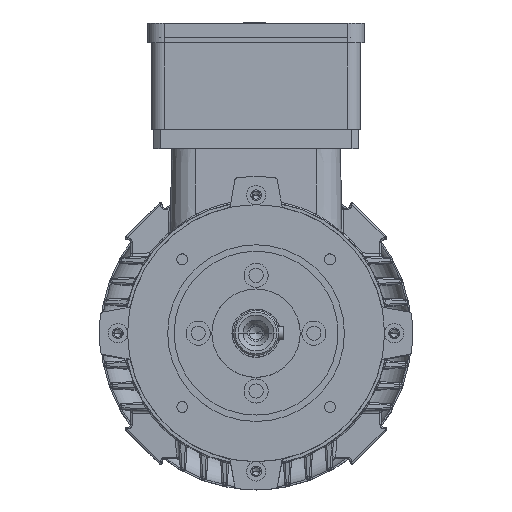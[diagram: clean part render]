
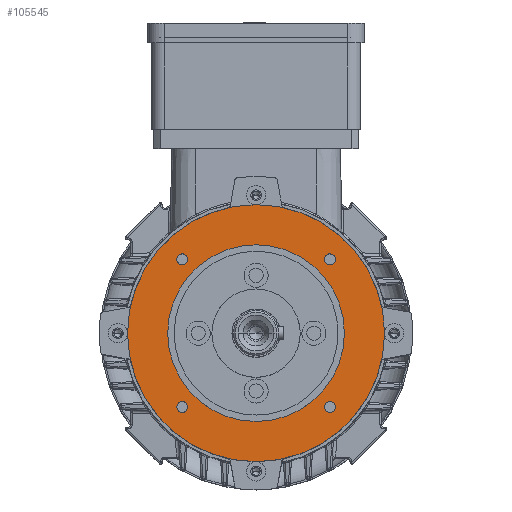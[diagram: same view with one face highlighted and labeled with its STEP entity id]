
A CAD part, top view. The second image highlights one B-rep face of the part: STEP entity #105545.
In plain terms, the highlighted planar face has unit normal (0, 0, 1).
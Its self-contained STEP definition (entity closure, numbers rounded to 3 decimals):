
#3446 = CARTESIAN_POINT ( 'NONE',  ( 0., 0., 165. ) ) ;
#5378 = DIRECTION ( 'NONE',  ( 1., 0., 0. ) ) ;
#5655 = VERTEX_POINT ( 'NONE', #103933 ) ;
#7184 = AXIS2_PLACEMENT_3D ( 'NONE', #95517, #97235, #117339 ) ;
#7222 = EDGE_CURVE ( 'NONE', #43646, #12132, #99992, .T. ) ;
#8353 = EDGE_CURVE ( 'NONE', #12132, #43646, #19361, .T. ) ;
#11064 = CARTESIAN_POINT ( 'NONE',  ( -49.362, -45.962, 165. ) ) ;
#11083 = AXIS2_PLACEMENT_3D ( 'NONE', #38043, #48596, #118892 ) ;
#12132 = VERTEX_POINT ( 'NONE', #11064 ) ;
#12850 = CARTESIAN_POINT ( 'NONE',  ( -45.962, -45.962, 165. ) ) ;
#13321 = VERTEX_POINT ( 'NONE', #38339 ) ;
#13409 = EDGE_CURVE ( 'NONE', #129583, #107128, #61983, .T. ) ;
#13477 = CARTESIAN_POINT ( 'NONE',  ( 49.362, -45.962, 165. ) ) ;
#16125 = DIRECTION ( 'NONE',  ( 0., 0., 1. ) ) ;
#16366 = ORIENTED_EDGE ( 'NONE', *, *, #88544, .F. ) ;
#16710 = ORIENTED_EDGE ( 'NONE', *, *, #58844, .F. ) ;
#17953 = DIRECTION ( 'NONE',  ( -1., 0., 0. ) ) ;
#18735 = EDGE_CURVE ( 'NONE', #13321, #101108, #28715, .T. ) ;
#19361 = CIRCLE ( 'NONE', #83890, 3.4 ) ;
#23197 = FACE_BOUND ( 'NONE', #87446, .T. ) ;
#25082 = ORIENTED_EDGE ( 'NONE', *, *, #18735, .F. ) ;
#26535 = CIRCLE ( 'NONE', #108433, 80. ) ;
#27885 = FACE_BOUND ( 'NONE', #81996, .T. ) ;
#28037 = EDGE_LOOP ( 'NONE', ( #25082, #45988 ) ) ;
#28715 = CIRCLE ( 'NONE', #62739, 55. ) ;
#30260 = CIRCLE ( 'NONE', #55232, 3.4 ) ;
#30484 = CARTESIAN_POINT ( 'NONE',  ( -49.362, 45.962, 165. ) ) ;
#30509 = CARTESIAN_POINT ( 'NONE',  ( -80., 0., 165. ) ) ;
#31743 = DIRECTION ( 'NONE',  ( 1., 0., 0. ) ) ;
#35683 = DIRECTION ( 'NONE',  ( 0., 0., 1. ) ) ;
#36039 = VERTEX_POINT ( 'NONE', #100584 ) ;
#37351 = DIRECTION ( 'NONE',  ( 0., 0., 1. ) ) ;
#38043 = CARTESIAN_POINT ( 'NONE',  ( 45.962, -45.962, 165. ) ) ;
#38339 = CARTESIAN_POINT ( 'NONE',  ( 55., 0., 165. ) ) ;
#40575 = ORIENTED_EDGE ( 'NONE', *, *, #7222, .F. ) ;
#40918 = DIRECTION ( 'NONE',  ( 0., 0., 1. ) ) ;
#41248 = ORIENTED_EDGE ( 'NONE', *, *, #13409, .F. ) ;
#41496 = CIRCLE ( 'NONE', #46647, 3.4 ) ;
#42279 = CIRCLE ( 'NONE', #11083, 3.4 ) ;
#43646 = VERTEX_POINT ( 'NONE', #127165 ) ;
#43785 = AXIS2_PLACEMENT_3D ( 'NONE', #66942, #126618, #86806 ) ;
#43818 = DIRECTION ( 'NONE',  ( 1., 0., 0. ) ) ;
#44195 = DIRECTION ( 'NONE',  ( 1., 0., 0. ) ) ;
#44689 = ORIENTED_EDGE ( 'NONE', *, *, #80777, .T. ) ;
#45319 = EDGE_CURVE ( 'NONE', #126870, #89071, #64580, .T. ) ;
#45988 = ORIENTED_EDGE ( 'NONE', *, *, #97946, .F. ) ;
#46647 = AXIS2_PLACEMENT_3D ( 'NONE', #55461, #35683, #5378 ) ;
#47839 = DIRECTION ( 'NONE',  ( 0., 0., -1. ) ) ;
#48596 = DIRECTION ( 'NONE',  ( 0., 0., 1. ) ) ;
#48736 = VERTEX_POINT ( 'NONE', #30509 ) ;
#54614 = FACE_OUTER_BOUND ( 'NONE', #113596, .T. ) ;
#55232 = AXIS2_PLACEMENT_3D ( 'NONE', #95281, #113223, #44195 ) ;
#55461 = CARTESIAN_POINT ( 'NONE',  ( 45.962, 45.962, 165. ) ) ;
#56362 = EDGE_LOOP ( 'NONE', ( #16366, #16710 ) ) ;
#58844 = EDGE_CURVE ( 'NONE', #36039, #78700, #30260, .T. ) ;
#59505 = AXIS2_PLACEMENT_3D ( 'NONE', #113302, #104577, #73793 ) ;
#60525 = EDGE_CURVE ( 'NONE', #48736, #5655, #98788, .T. ) ;
#61255 = ORIENTED_EDGE ( 'NONE', *, *, #45319, .F. ) ;
#61983 = CIRCLE ( 'NONE', #82982, 3.4 ) ;
#62066 = CARTESIAN_POINT ( 'NONE',  ( -45.962, 45.962, 165. ) ) ;
#62739 = AXIS2_PLACEMENT_3D ( 'NONE', #87575, #37351, #107703 ) ;
#64089 = CARTESIAN_POINT ( 'NONE',  ( -45.962, -45.962, 165. ) ) ;
#64580 = CIRCLE ( 'NONE', #43785, 3.4 ) ;
#66942 = CARTESIAN_POINT ( 'NONE',  ( 45.962, -45.962, 165. ) ) ;
#68523 = PLANE ( 'NONE',  #107257 ) ;
#70163 = AXIS2_PLACEMENT_3D ( 'NONE', #64089, #92731, #43818 ) ;
#71736 = DIRECTION ( 'NONE',  ( 1., 0., 0. ) ) ;
#73793 = DIRECTION ( 'NONE',  ( 1., 0., 0. ) ) ;
#75831 = ORIENTED_EDGE ( 'NONE', *, *, #60525, .T. ) ;
#78633 = CARTESIAN_POINT ( 'NONE',  ( 0., 55., 165. ) ) ;
#78700 = VERTEX_POINT ( 'NONE', #84819 ) ;
#80777 = EDGE_CURVE ( 'NONE', #5655, #48736, #26535, .T. ) ;
#81996 = EDGE_LOOP ( 'NONE', ( #40575, #115557 ) ) ;
#82982 = AXIS2_PLACEMENT_3D ( 'NONE', #62066, #101674, #31743 ) ;
#83890 = AXIS2_PLACEMENT_3D ( 'NONE', #12850, #40918, #71736 ) ;
#84369 = DIRECTION ( 'NONE',  ( 0., 0., 1. ) ) ;
#84819 = CARTESIAN_POINT ( 'NONE',  ( 49.362, 45.962, 165. ) ) ;
#84820 = EDGE_CURVE ( 'NONE', #107128, #129583, #109539, .T. ) ;
#86806 = DIRECTION ( 'NONE',  ( 1., 0., 0. ) ) ;
#87446 = EDGE_LOOP ( 'NONE', ( #61255, #94963 ) ) ;
#87575 = CARTESIAN_POINT ( 'NONE',  ( 0., 0., 165. ) ) ;
#87850 = CARTESIAN_POINT ( 'NONE',  ( 42.562, -45.962, 165. ) ) ;
#87931 = CARTESIAN_POINT ( 'NONE',  ( -42.562, 45.962, 165. ) ) ;
#88544 = EDGE_CURVE ( 'NONE', #78700, #36039, #41496, .T. ) ;
#89071 = VERTEX_POINT ( 'NONE', #87850 ) ;
#92731 = DIRECTION ( 'NONE',  ( 0., 0., 1. ) ) ;
#94963 = ORIENTED_EDGE ( 'NONE', *, *, #114952, .F. ) ;
#95281 = CARTESIAN_POINT ( 'NONE',  ( 45.962, 45.962, 165. ) ) ;
#95517 = CARTESIAN_POINT ( 'NONE',  ( -45.962, 45.962, 165. ) ) ;
#95756 = CARTESIAN_POINT ( 'NONE',  ( 0., 0., 165. ) ) ;
#96045 = CARTESIAN_POINT ( 'NONE',  ( -55., 0., 165. ) ) ;
#96924 = AXIS2_PLACEMENT_3D ( 'NONE', #95756, #16125, #106252 ) ;
#97135 = CIRCLE ( 'NONE', #96924, 55. ) ;
#97235 = DIRECTION ( 'NONE',  ( 0., 0., 1. ) ) ;
#97946 = EDGE_CURVE ( 'NONE', #101108, #13321, #97135, .T. ) ;
#98788 = CIRCLE ( 'NONE', #59505, 80. ) ;
#99992 = CIRCLE ( 'NONE', #70163, 3.4 ) ;
#100285 = FACE_BOUND ( 'NONE', #123222, .T. ) ;
#100584 = CARTESIAN_POINT ( 'NONE',  ( 42.562, 45.962, 165. ) ) ;
#101108 = VERTEX_POINT ( 'NONE', #96045 ) ;
#101674 = DIRECTION ( 'NONE',  ( 0., 0., 1. ) ) ;
#103473 = FACE_BOUND ( 'NONE', #28037, .T. ) ;
#103933 = CARTESIAN_POINT ( 'NONE',  ( 80., 0., 165. ) ) ;
#104577 = DIRECTION ( 'NONE',  ( 0., 0., 1. ) ) ;
#104980 = FACE_BOUND ( 'NONE', #56362, .T. ) ;
#105545 = ADVANCED_FACE ( 'NONE', ( #100285, #27885, #23197, #104980, #103473, #54614 ), #68523, .F. ) ;
#106252 = DIRECTION ( 'NONE',  ( 1., 0., 0. ) ) ;
#107128 = VERTEX_POINT ( 'NONE', #30484 ) ;
#107257 = AXIS2_PLACEMENT_3D ( 'NONE', #78633, #47839, #17953 ) ;
#107703 = DIRECTION ( 'NONE',  ( 1., 0., 0. ) ) ;
#108433 = AXIS2_PLACEMENT_3D ( 'NONE', #3446, #84369, #124653 ) ;
#109539 = CIRCLE ( 'NONE', #7184, 3.4 ) ;
#113223 = DIRECTION ( 'NONE',  ( 0., 0., 1. ) ) ;
#113302 = CARTESIAN_POINT ( 'NONE',  ( 0., 0., 165. ) ) ;
#113596 = EDGE_LOOP ( 'NONE', ( #44689, #75831 ) ) ;
#114952 = EDGE_CURVE ( 'NONE', #89071, #126870, #42279, .T. ) ;
#115557 = ORIENTED_EDGE ( 'NONE', *, *, #8353, .F. ) ;
#117339 = DIRECTION ( 'NONE',  ( 1., 0., 0. ) ) ;
#118892 = DIRECTION ( 'NONE',  ( 1., 0., 0. ) ) ;
#122981 = ORIENTED_EDGE ( 'NONE', *, *, #84820, .F. ) ;
#123222 = EDGE_LOOP ( 'NONE', ( #41248, #122981 ) ) ;
#124653 = DIRECTION ( 'NONE',  ( 1., 0., 0. ) ) ;
#126618 = DIRECTION ( 'NONE',  ( 0., 0., 1. ) ) ;
#126870 = VERTEX_POINT ( 'NONE', #13477 ) ;
#127165 = CARTESIAN_POINT ( 'NONE',  ( -42.562, -45.962, 165. ) ) ;
#129583 = VERTEX_POINT ( 'NONE', #87931 ) ;
